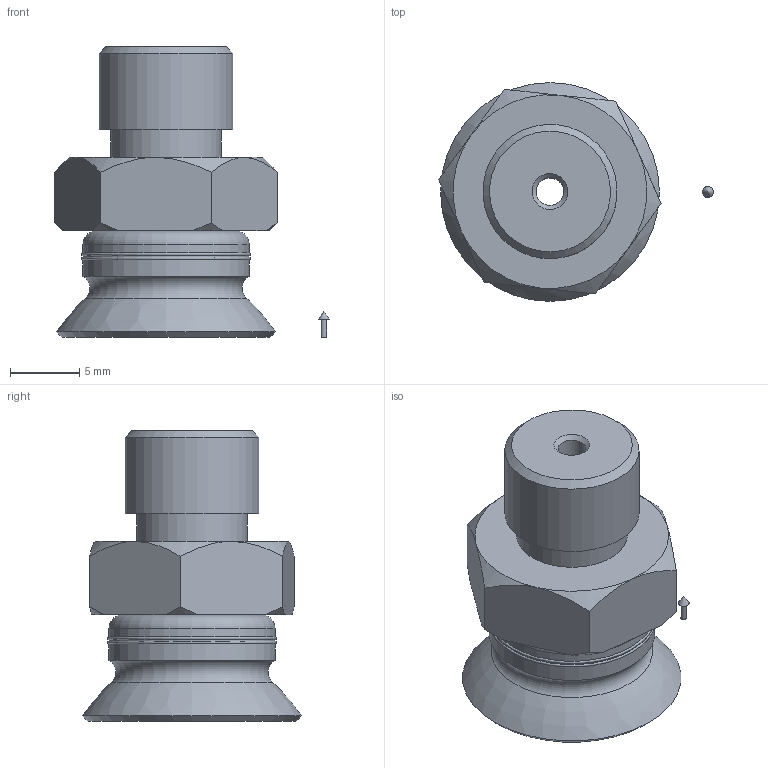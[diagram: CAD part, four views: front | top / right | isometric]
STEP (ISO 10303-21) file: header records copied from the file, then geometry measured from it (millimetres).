
FILE_DESCRIPTION(('STEP AP214'),'1');
FILE_NAME('KIT.08.29.D15.stp','2019-05-27T15:18:39',(' '),(' '),'Spatial InterOp 3D',' ',' ');
FILE_SCHEMA(('AUTOMOTIVE_DESIGN { 1 0 10303 214 1 1 1 1 }'));
Length unit declared in the file: millimetre
Products named in the file (5): KIT.08.29.D15; CA.08.09.015; CA.08.29.005
Assembly tree (4 placements, depth 3):
  KIT.08.29.D15
    CA.08.09.015
    (unnamed)
      CA.08.29.005
      CA.08.29.005
Bounding box: 19.85 x 15.8 x 21 mm (x, y, z)
Volume: 2062.4 mm3; surface area: 1845 mm2
Topology: 3 solids, 3 shells, 51 faces, 106 edges, 65 vertices
Faces by surface type: cone 18, plane 16, cylinder 11, torus 4, bspline 2
Full cylindrical faces by diameter (mm): 0.4 x1, 2 x1, 4.5 x1, 5 x1, 7.8 x1, 8 x1, 8.1 x1, 9.7 x1, 12 x3
Entity records: 1938 total; most frequent: CARTESIAN_POINT 462, DIRECTION 208, ORIENTED_EDGE 158, AXIS2_PLACEMENT_3D 98, EDGE_LOOP 82, EDGE_CURVE 79, FACE_OUTER_BOUND 68, VERTEX_POINT 62
